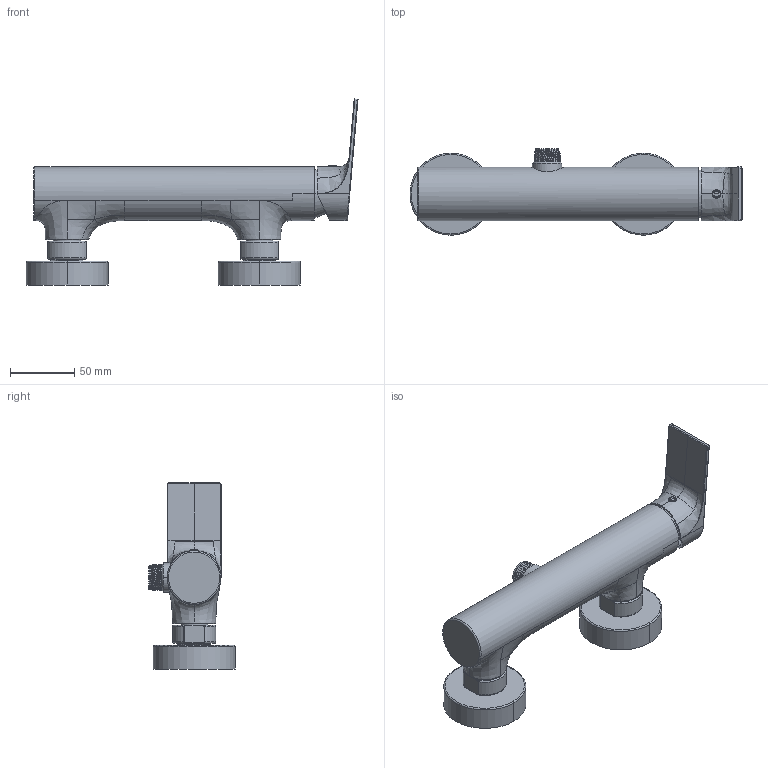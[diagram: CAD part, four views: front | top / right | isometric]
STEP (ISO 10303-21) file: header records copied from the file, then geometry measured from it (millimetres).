
FILE_DESCRIPTION((''),'2;1');
FILE_NAME('78007_SW0001','2024-09-12T15:39:51',('carloff'),(''),'CREO PARAMETRIC BY PTC INC, 2022014','CREO PARAMETRIC BY PTC INC, 2022014','');
FILE_SCHEMA(('CONFIG_CONTROL_DESIGN'));
Length unit declared in the file: millimetre
Products named in the file (1): 78007_SW0001
Bounding box: 258.97 x 67.3 x 145.09 mm (x, y, z)
Volume: 520818.6 mm3; surface area: 76415.8 mm2
Topology: 2 solids, 3 shells, 347 faces, 855 edges, 517 vertices
Faces by surface type: bspline 105, cylinder 101, plane 82, cone 29, torus 26, extrusion 2, sphere 2
Entity records: 31699 total; most frequent: CARTESIAN_POINT 24264, ORIENTED_EDGE 1702, DIRECTION 1286, EDGE_CURVE 851, VERTEX_POINT 517, AXIS2_PLACEMENT_3D 483, EDGE_LOOP 364, FACE_OUTER_BOUND 347
